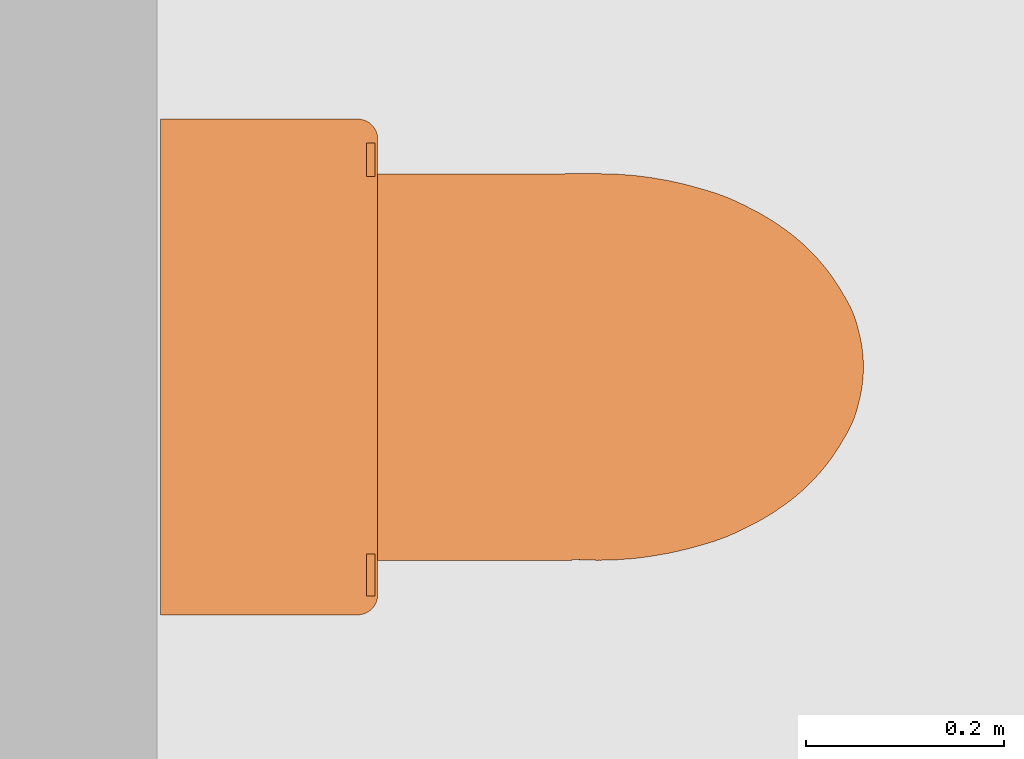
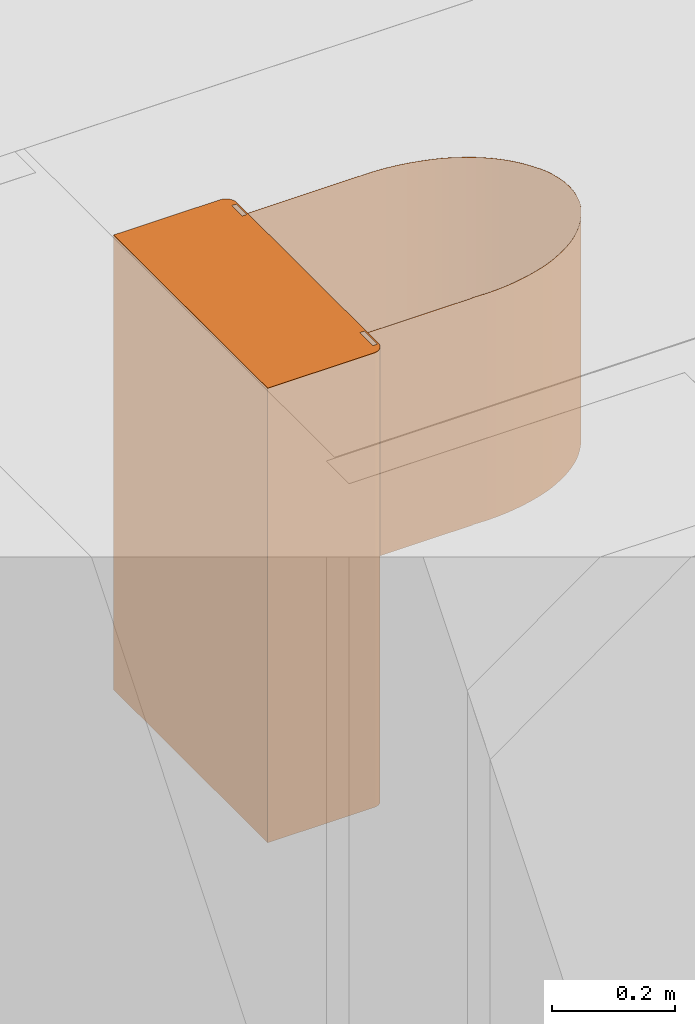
# Not in any storey, part 9 of 22: 1 proxy.
"""IFC4 model written with IfcOpenShell, lengths in metres."""

from ifc_helpers import new_model, si_unit, direction, origin_with_axes, place, context, subcontext, project, faceted_brep, element, save


model = new_model("IFC4")

# Units and contexts
model_context = context("Model", 3, precision=1e-05, world=origin_with_axes(), true_north=direction((1.0, 0.0)))
body_context = subcontext(model_context, "Body", "Model", "MODEL_VIEW")
ifc_project = project(units=[si_unit("LENGTHUNIT", "METRE"), si_unit("AREAUNIT", "SQUARE_METRE"), si_unit("VOLUMEUNIT", "CUBIC_METRE"), si_unit("MASSUNIT", "GRAM", prefix="KILO"), si_unit("TIMEUNIT", "SECOND"), si_unit("PLANEANGLEUNIT", "RADIAN"), si_unit("SOLIDANGLEUNIT", "STERADIAN")], contexts=[model_context])

# Proxy
proxy_placement = place(None, origin_with_axes())
element("IfcBuildingElementProxy", 1, at=proxy_placement, Name="Bloc WC", PredefinedType="NOTDEFINED", context=body_context, shape_type="AdvancedBrep", body=[
    faceted_brep([(148.585199, 21.284278, 2.31), (148.585199, 20.786307, 2.31), (148.585199, 20.784275, 2.31), (148.75418, 20.784269, 2.31), (148.786182, 20.784275, 2.31), (148.786182, 20.784444, 2.31), (148.787277, 20.784564, 2.31), (148.788362, 20.784749, 2.31), (148.789434, 20.785, 2.31), (148.790489, 20.785316, 2.31), (148.791523, 20.785695, 2.31), (148.792532, 20.786137, 2.31), (148.793529, 20.786629, 2.31), (148.794498, 20.787175, 2.31), (148.795436, 20.787774, 2.31), (148.796339, 20.788422, 2.31), (148.797206, 20.789119, 2.31), (148.798034, 20.789862, 2.31), (148.798807, 20.790637, 2.31), (148.799533, 20.791456, 2.31), (148.80021, 20.792316, 2.31), (148.800837, 20.793214, 2.31), (148.80141, 20.794146, 2.31), (148.801929, 20.79511, 2.31), (148.802492, 20.796289, 2.31), (148.802979, 20.797502, 2.31), (148.803387, 20.798744, 2.31), (148.803714, 20.800009, 2.31), (148.803961, 20.801292, 2.31), (148.804215, 20.801292, 2.31), (148.804215, 20.804341, 2.31), (148.804215, 20.839304, 2.31), (148.804215, 21.228738, 2.31), (148.804212, 21.264296, 2.31), (148.804182, 21.265523, 2.31), (148.804074, 21.266747, 2.31), (148.803886, 21.26796, 2.31), (148.803621, 21.26916, 2.31), (148.80328, 21.270339, 2.31), (148.802863, 21.271494, 2.31), (148.802393, 21.272617, 2.31), (148.801854, 21.273708, 2.31), (148.801248, 21.274763, 2.31), (148.800576, 21.275777, 2.31), (148.799842, 21.276748, 2.31), (148.799048, 21.27767, 2.31), (148.798197, 21.278564, 2.31), (148.797292, 21.279405, 2.31), (148.796338, 21.280188, 2.31), (148.795337, 21.280911, 2.31), (148.794293, 21.28157, 2.31), (148.793209, 21.282162, 2.31), (148.792096, 21.282674, 2.31), (148.790954, 21.283119, 2.31), (148.789787, 21.283494, 2.31), (148.7886, 21.283798, 2.31), (148.787397, 21.284031, 2.31), (148.786182, 21.284278, 2.31), (148.75418, 21.28428, 2.31), (148.80159, 21.226538, 2.31), (148.793124, 21.226538, 2.31), (148.793124, 21.235004, 2.31), (148.793124, 21.251935, 2.31), (148.793124, 21.260403, 2.31), (148.80159, 21.260403, 2.31), (148.793124, 20.845569, 2.31), (148.80159, 20.845569, 2.31), (148.80159, 20.803238, 2.31), (148.793124, 20.803238, 2.31), (148.793124, 20.811704, 2.31), (148.793124, 20.837103, 2.31), (149.010774, 20.839709, 2.31), (149.026531, 20.839304, 2.31), (149.013399, 20.839557, 2.31), (148.585199, 20.786307, 1.41), (148.585199, 21.284278, 1.41), (148.786182, 21.284278, 1.41), (148.787397, 21.284031, 1.41), (148.7886, 21.283798, 1.41), (148.789787, 21.283494, 1.41), (148.790954, 21.283119, 1.41), (148.792096, 21.282674, 1.41), (148.793209, 21.282162, 1.41), (148.794293, 21.28157, 1.41), (148.795337, 21.280911, 1.41), (148.796338, 21.280188, 1.41), (148.797292, 21.279405, 1.41), (148.798197, 21.278564, 1.41), (148.799048, 21.27767, 1.41), (148.799842, 21.276748, 1.41), (148.800576, 21.275777, 1.41), (148.801248, 21.274763, 1.41), (148.801854, 21.273708, 1.41), (148.802393, 21.272617, 1.41), (148.802863, 21.271494, 1.41), (148.80328, 21.270339, 1.41), (148.803621, 21.26916, 1.41), (148.803886, 21.26796, 1.41), (148.804074, 21.266747, 1.41), (148.804182, 21.265523, 1.41), (148.804212, 21.264296, 1.41), (148.804215, 20.804341, 1.41), (148.804215, 20.801292, 1.41), (148.803961, 20.801292, 1.41), (148.803714, 20.800009, 1.41), (148.803387, 20.798744, 1.41), (148.802979, 20.797502, 1.41), (148.802492, 20.796289, 1.41), (148.801929, 20.79511, 1.41), (148.80141, 20.794146, 1.41), (148.800837, 20.793214, 1.41), (148.80021, 20.792316, 1.41), (148.799533, 20.791456, 1.41), (148.798807, 20.790637, 1.41), (148.798034, 20.789862, 1.41), (148.797206, 20.789119, 1.41), (148.796339, 20.788422, 1.41), (148.795436, 20.787774, 1.41), (148.794498, 20.787175, 1.41), (148.793529, 20.786629, 1.41), (148.792532, 20.786137, 1.41), (148.791523, 20.785695, 1.41), (148.790489, 20.785316, 1.41), (148.789434, 20.785, 1.41), (148.788362, 20.784749, 1.41), (148.787277, 20.784564, 1.41), (148.786182, 20.784444, 1.41), (148.786182, 20.784275, 1.41), (148.585199, 20.784275, 1.41), (149.010035, 20.839752, 1.86), (149.009032, 20.839811, 1.86), (149.000287, 20.84032, 1.86), (149.000287, 20.839304, 1.86), (148.804215, 20.839304, 1.86), (148.804215, 21.228738, 1.86), (149.012901, 21.229249, 1.86), (149.013011, 21.229249, 1.86), (149.013116, 21.229249, 1.86), (149.013218, 21.229249, 1.86), (149.013416, 21.229249, 1.86), (149.013617, 21.229249, 1.86), (149.013722, 21.229249, 1.86), (149.013832, 21.229249, 1.86), (149.027887, 21.229249, 1.86), (149.045387, 21.228823, 1.86), (149.062843, 21.227499, 1.86), (149.080207, 21.225275, 1.86), (149.098124, 21.22216, 1.86), (149.115776, 21.218145, 1.86), (149.133201, 21.213241, 1.86), (149.144065, 21.209987, 1.86), (149.154734, 21.206145, 1.86), (149.165178, 21.201725, 1.86), (149.175365, 21.196742, 1.86), (149.17621, 21.196314, 1.86), (149.189931, 21.189215, 1.86), (149.203184, 21.181276, 1.86), (149.215916, 21.172526, 1.86), (149.21617, 21.172271, 1.86), (149.224948, 21.16556, 1.86), (149.23334, 21.158372, 1.86), (149.241317, 21.150726, 1.86), (149.248853, 21.142645, 1.86), (149.249187, 21.142301, 1.86), (149.256411, 21.133619, 1.86), (149.263148, 21.124555, 1.86), (149.269381, 21.115136, 1.86), (149.275091, 21.105391, 1.86), (149.275177, 21.105306, 1.86), (149.275431, 21.104968, 1.86), (149.278494, 21.099702, 1.86), (149.281259, 21.094275, 1.86), (149.283714, 21.088701, 1.86), (149.285852, 21.082997, 1.86), (149.287666, 21.077182, 1.86), (149.28915, 21.071274, 1.86), (149.290933, 21.064071, 1.86), (149.29233, 21.056782, 1.86), (149.293332, 21.049429, 1.86), (149.293937, 21.042032, 1.86), (149.294143, 21.034614, 1.86), (149.294141, 21.033936, 1.86), (149.293937, 21.026518, 1.86), (149.293332, 21.019122, 1.86), (149.29233, 21.011769, 1.86), (149.290933, 21.004481, 1.86), (149.289145, 20.997279, 1.86), (149.287664, 20.991384, 1.86), (149.285851, 20.985582, 1.86), (149.283714, 20.979892, 1.86), (149.28126, 20.974331, 1.86), (149.278496, 20.968917, 1.86), (149.275432, 20.963668, 1.86), (149.275177, 20.96333, 1.86), (149.275093, 20.963162, 1.86), (149.269391, 20.953431, 1.86), (149.263163, 20.944029, 1.86), (149.256423, 20.934986, 1.86), (149.249191, 20.926331, 1.86), (149.248849, 20.925995, 1.86), (149.241316, 20.917891, 1.86), (149.233341, 20.910222, 1.86), (149.22495, 20.903011, 1.86), (149.216169, 20.896279, 1.86), (149.215916, 20.896111, 1.86), (149.203195, 20.887341, 1.86), (149.189945, 20.879397, 1.86), (149.176213, 20.872315, 1.86), (149.175363, 20.871898, 1.86), (149.165178, 20.866892, 1.86), (149.154736, 20.862449, 1.86), (149.144067, 20.858582, 1.86), (149.133203, 20.855303, 1.86), (149.115775, 20.850432, 1.86), (149.098122, 20.846449, 1.86), (149.080291, 20.843367, 1.86), (149.080206, 20.843282, 1.86), (149.06284, 20.841084, 1.86), (149.045385, 20.839754, 1.86), (149.027887, 20.839301, 1.86), (149.027167, 20.839752, 1.86), (149.027208, 20.839304, 1.86), (149.026531, 20.839304, 1.86), (149.010774, 20.839709, 1.86), (149.010035, 20.839752, 2.31), (149.009032, 20.839752, 2.31), (149.000287, 20.84032, 2.31), (149.000287, 20.839304, 2.31), (149.012901, 21.229249, 2.31), (149.013011, 21.229249, 2.31), (149.013116, 21.229249, 2.31), (149.013218, 21.229249, 2.31), (149.013416, 21.229249, 2.31), (149.013617, 21.229249, 2.31), (149.013722, 21.229249, 2.31), (149.013832, 21.229249, 2.31), (149.026531, 21.229249, 2.31), (149.027208, 21.229249, 2.31), (149.027887, 21.229249, 2.31), (149.045387, 21.228823, 2.31), (149.062843, 21.227499, 2.31), (149.080207, 21.225275, 2.31), (149.098124, 21.22216, 2.31), (149.115776, 21.218145, 2.31), (149.133201, 21.213241, 2.31), (149.144065, 21.209987, 2.31), (149.154734, 21.206145, 2.31), (149.165178, 21.201725, 2.31), (149.175365, 21.196742, 2.31), (149.17621, 21.196314, 2.31), (149.189931, 21.189215, 2.31), (149.203184, 21.181276, 2.31), (149.215916, 21.172526, 2.31), (149.21617, 21.172271, 2.31), (149.224948, 21.16556, 2.31), (149.23334, 21.158372, 2.31), (149.241317, 21.150726, 2.31), (149.248853, 21.142645, 2.31), (149.249187, 21.142301, 2.31), (149.256411, 21.133619, 2.31), (149.263148, 21.124555, 2.31), (149.269381, 21.115136, 2.31), (149.275091, 21.105391, 2.31), (149.275177, 21.105306, 2.31), (149.275431, 21.104968, 2.31), (149.278494, 21.099702, 2.31), (149.281259, 21.094275, 2.31), (149.283714, 21.088701, 2.31), (149.285852, 21.082997, 2.31), (149.287666, 21.077182, 2.31), (149.28915, 21.071274, 2.31), (149.290933, 21.064071, 2.31), (149.29233, 21.056782, 2.31), (149.293332, 21.049429, 2.31), (149.293937, 21.042032, 2.31), (149.294143, 21.034614, 2.31), (149.294141, 21.033936, 2.31), (149.293937, 21.026518, 2.31), (149.293332, 21.019122, 2.31), (149.29233, 21.011769, 2.31), (149.290933, 21.004481, 2.31), (149.289145, 20.997279, 2.31), (149.287664, 20.991384, 2.31), (149.285851, 20.985582, 2.31), (149.283714, 20.979892, 2.31), (149.28126, 20.974331, 2.31), (149.278496, 20.968917, 2.31), (149.275432, 20.963668, 2.31), (149.275177, 20.96333, 2.31), (149.275093, 20.963162, 2.31), (149.269391, 20.953431, 2.31), (149.263163, 20.944029, 2.31), (149.256423, 20.934986, 2.31), (149.249191, 20.926331, 2.31), (149.248849, 20.925995, 2.31), (149.241316, 20.917891, 2.31), (149.233341, 20.910222, 2.31), (149.22495, 20.903011, 2.31), (149.216169, 20.896279, 2.31), (149.215916, 20.896111, 2.31), (149.203195, 20.887341, 2.31), (149.189945, 20.879397, 2.31), (149.176213, 20.872315, 2.31), (149.175363, 20.871898, 2.31), (149.165178, 20.866892, 2.31), (149.154736, 20.862449, 2.31), (149.144067, 20.858582, 2.31), (149.133203, 20.855303, 2.31), (149.115775, 20.850432, 2.31), (149.098122, 20.846449, 2.31), (149.080291, 20.843367, 2.31), (149.080206, 20.843282, 2.31), (149.06284, 20.841084, 2.31), (149.045385, 20.839754, 2.31), (149.027887, 20.839301, 2.31), (149.027167, 20.839304, 2.31), (149.027167, 20.839752, 2.31)], [[[0, 1, 2, 3, 4, 5, 6, 7, 8, 9, 10, 11, 12, 13, 14, 15, 16, 17, 18, 19, 20, 21, 22, 23, 24, 25, 26, 27, 28, 29, 30, 31, 32, 33, 34, 35, 36, 37, 38, 39, 40, 41, 42, 43, 44, 45, 46, 47, 48, 49, 50, 51, 52, 53, 54, 55, 56, 57, 58], [59, 60, 61, 62, 63, 64], [65, 66, 67, 68, 69, 70]], [[71, 72, 73]], [[74, 75, 76, 77, 78, 79, 80, 81, 82, 83, 84, 85, 86, 87, 88, 89, 90, 91, 92, 93, 94, 95, 96, 97, 98, 99, 100, 101, 102, 103, 104, 105, 106, 107, 108, 109, 110, 111, 112, 113, 114, 115, 116, 117, 118, 119, 120, 121, 122, 123, 124, 125, 126, 127, 128]], [[1, 0, 75, 74]], [[0, 58, 57, 76, 75]], [[57, 56, 77, 76]], [[56, 55, 78, 77]], [[55, 54, 79, 78]], [[54, 53, 80, 79]], [[53, 52, 81, 80]], [[52, 51, 82, 81]], [[51, 50, 83, 82]], [[50, 49, 84, 83]], [[49, 48, 85, 84]], [[48, 47, 86, 85]], [[47, 46, 87, 86]], [[46, 45, 88, 87]], [[45, 44, 89, 88]], [[44, 43, 90, 89]], [[43, 42, 91, 90]], [[42, 41, 92, 91]], [[41, 40, 93, 92]], [[40, 39, 94, 93]], [[39, 38, 95, 94]], [[38, 37, 96, 95]], [[37, 36, 97, 96]], [[36, 35, 98, 97]], [[35, 34, 99, 98]], [[34, 33, 100, 99]], [[33, 32, 31, 30, 101, 100]], [[30, 29, 102, 101]], [[29, 28, 103, 102]], [[28, 27, 104, 103]], [[27, 26, 105, 104]], [[26, 25, 106, 105]], [[25, 24, 107, 106]], [[24, 23, 108, 107]], [[23, 22, 109, 108]], [[22, 21, 110, 109]], [[21, 20, 111, 110]], [[20, 19, 112, 111]], [[19, 18, 113, 112]], [[18, 17, 114, 113]], [[17, 16, 115, 114]], [[16, 15, 116, 115]], [[15, 14, 117, 116]], [[14, 13, 118, 117]], [[13, 12, 119, 118]], [[12, 11, 120, 119]], [[11, 10, 121, 120]], [[10, 9, 122, 121]], [[9, 8, 123, 122]], [[8, 7, 124, 123]], [[7, 6, 125, 124]], [[6, 5, 126, 125]], [[5, 4, 127, 126]], [[4, 3, 2, 128, 127]], [[2, 1, 74, 128]], [[60, 59, 64, 63, 62, 61]], [[66, 65, 70, 69, 68, 67]], [[129, 130, 131, 132, 133, 134, 135, 136, 137, 138, 139, 140, 141, 142, 143, 144, 145, 146, 147, 148, 149, 150, 151, 152, 153, 154, 155, 156, 157, 158, 159, 160, 161, 162, 163, 164, 165, 166, 167, 168, 169, 170, 171, 172, 173, 174, 175, 176, 177, 178, 179, 180, 181, 182, 183, 184, 185, 186, 187, 188, 189, 190, 191, 192, 193, 194, 195, 196, 197, 198, 199, 200, 201, 202, 203, 204, 205, 206, 207, 208, 209, 210, 211, 212, 213, 214, 215, 216, 217, 218, 219, 220, 221, 222, 223]], [[224, 225, 130, 129]], [[225, 226, 131, 130]], [[226, 227, 132, 131]], [[227, 31, 133, 132]], [[31, 32, 134, 133]], [[32, 228, 135, 134]], [[228, 229, 136, 135]], [[229, 230, 137, 136]], [[230, 231, 138, 137]], [[231, 232, 139, 138]], [[232, 233, 140, 139]], [[233, 234, 141, 140]], [[234, 235, 142, 141]], [[235, 236, 237, 238, 143, 142]], [[238, 239, 144, 143]], [[239, 240, 145, 144]], [[240, 241, 146, 145]], [[241, 242, 147, 146]], [[242, 243, 148, 147]], [[243, 244, 149, 148]], [[244, 245, 150, 149]], [[245, 246, 151, 150]], [[246, 247, 152, 151]], [[247, 248, 153, 152]], [[248, 249, 154, 153]], [[249, 250, 155, 154]], [[250, 251, 156, 155]], [[251, 252, 157, 156]], [[252, 253, 158, 157]], [[253, 254, 159, 158]], [[254, 255, 160, 159]], [[255, 256, 161, 160]], [[256, 257, 162, 161]], [[257, 258, 163, 162]], [[258, 259, 164, 163]], [[259, 260, 165, 164]], [[260, 261, 166, 165]], [[261, 262, 167, 166]], [[262, 263, 168, 167]], [[263, 264, 169, 168]], [[264, 265, 170, 169]], [[265, 266, 171, 170]], [[266, 267, 172, 171]], [[267, 268, 173, 172]], [[268, 269, 174, 173]], [[269, 270, 175, 174]], [[270, 271, 176, 175]], [[271, 272, 177, 176]], [[272, 273, 178, 177]], [[273, 274, 179, 178]], [[274, 275, 180, 179]], [[275, 276, 181, 180]], [[276, 277, 182, 181]], [[277, 278, 183, 182]], [[278, 279, 184, 183]], [[279, 280, 185, 184]], [[280, 281, 186, 185]], [[281, 282, 187, 186]], [[282, 283, 188, 187]], [[283, 284, 189, 188]], [[284, 285, 190, 189]], [[285, 286, 191, 190]], [[286, 287, 192, 191]], [[287, 288, 193, 192]], [[288, 289, 194, 193]], [[289, 290, 195, 194]], [[290, 291, 196, 195]], [[291, 292, 197, 196]], [[292, 293, 198, 197]], [[293, 294, 199, 198]], [[294, 295, 200, 199]], [[295, 296, 201, 200]], [[296, 297, 202, 201]], [[297, 298, 203, 202]], [[298, 299, 204, 203]], [[299, 300, 205, 204]], [[300, 301, 206, 205]], [[301, 302, 207, 206]], [[302, 303, 208, 207]], [[303, 304, 209, 208]], [[304, 305, 210, 209]], [[305, 306, 211, 210]], [[306, 307, 212, 211]], [[307, 308, 213, 212]], [[308, 309, 214, 213]], [[309, 310, 215, 214]], [[310, 311, 216, 215]], [[311, 312, 217, 216]], [[312, 313, 218, 217]], [[313, 314, 219, 218]], [[314, 315, 221, 219]], [[315, 316, 220, 221]], [[316, 315, 221, 220]], [[315, 72, 222, 221]], [[72, 71, 223, 222]], [[71, 224, 129, 223]]]),
])

save(model, "model.ifc")
